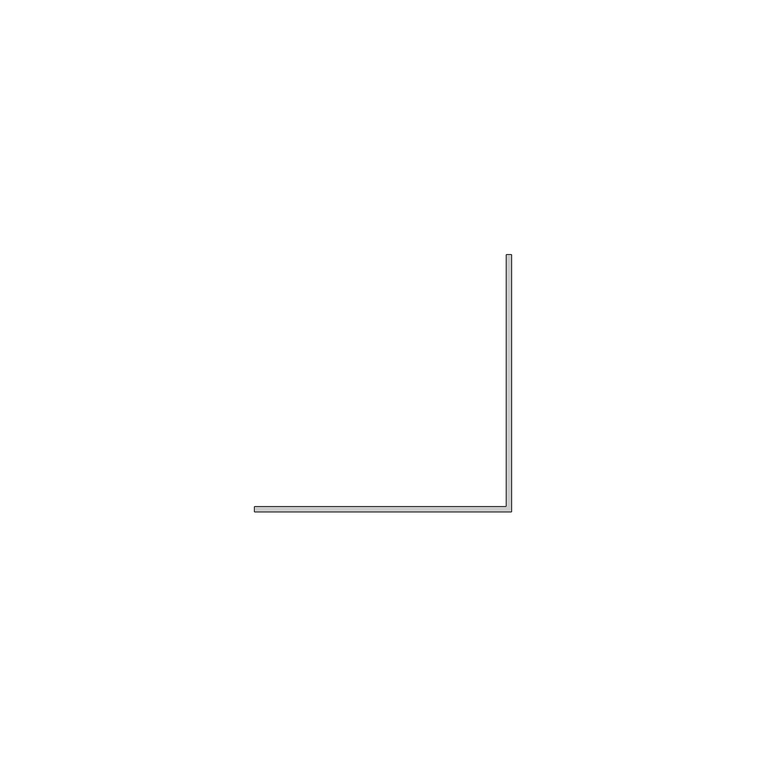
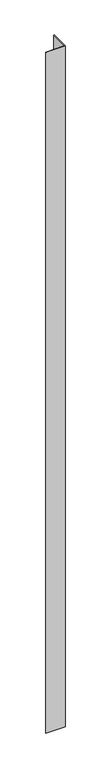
"""IFC4 building model written with IfcOpenShell, lengths in millimetres: member geometry, Meneau d'angle en L : ATELIERS 3S_Angle rentrant."""

from ifc_helpers import new_model, si_unit, frame, origin, place, context, project, spatial, polyline, outline, extrude, source, transform, mapped, element, save


def member_f168e29d(model_context):
    return source(origin(), model_context, "Body", "SweptSolid", [
        extrude(outline(polyline([(0.0, 50.5), (0.0, 0.0), (-50.5, 0.0), (-50.5, 1.0), (-1.0, 1.0), (-1.0, 50.5), (0.0, 50.5)])), frame((0.0, 0.0, -1900.0), z_axis=(0.0, 0.0, 1.0), x_axis=(1.0, 0.0, 0.0)), (0.0, 0.0, 1.0), 1900.0),
    ])


if __name__ == "__main__":
    model = new_model("IFC4")
    model_context = context("Model", 3, world=origin())
    ifc_project = project(units=[si_unit("LENGTHUNIT", "METRE", prefix="MILLI")], contexts=[model_context])
    site = spatial("IfcSite", under=ifc_project)
    building = spatial("IfcBuilding", under=site)
    placement = place(None, origin())
    member_shape = member_f168e29d(model_context)
    element("IfcMember", 1, ObjectType="Meneau d'angle en L : ATELIERS 3S_Angle rentrant", at=placement, inside=building, context=model_context, shape_type="MappedRepresentation", body=[
        mapped(member_shape, transform((0.0, 0.0, 0.0), x_axis=(1.0, 0.0, 0.0), y_axis=(0.0, 1.0, 0.0), z_axis=(0.0, 0.0, 1.0))),
    ])
    save(model, "model.ifc")
